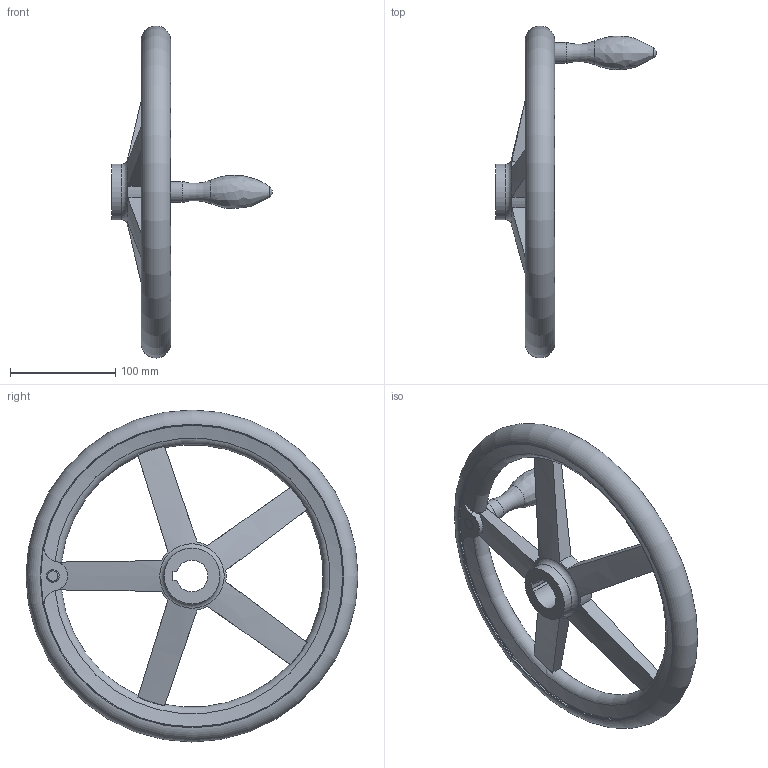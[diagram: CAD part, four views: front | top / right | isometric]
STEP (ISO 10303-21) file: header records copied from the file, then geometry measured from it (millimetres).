
FILE_DESCRIPTION( ( 'STEP AP203' ), '1' );
FILE_NAME( 'C:/Temp/Ganter_Step_05_03_2020/data/1_3/din_950/din_950_k/din_950_k_f/Handwheel DIN 950-GG-315-K30-F.stp', '2020-03-05T10:31:24', ( 'License CC BY-ND 4.0' ), ( 'CADENAS' ), ' ', 'PARTsolutions', ' ' );
FILE_SCHEMA( ( 'CONFIG_CONTROL_DESIGN' ) );
Length unit declared in the file: millimetre
Products named in the file (1): _Handwheel DIN 950-GG-315-K30-F
Bounding box: 152.5 x 315 x 315 mm (x, y, z)
Volume: 848423.8 mm3; surface area: 143518 mm2
Topology: 1 solids, 1 shells, 66 faces, 196 edges, 127 vertices
Faces by surface type: torus 21, cylinder 20, plane 18, cone 5, sphere 1, bspline 1
Full cylindrical faces by diameter (mm): 12 x1, 19.8 x1, 53 x2, 287 x2
Entity records: 2704 total; most frequent: CARTESIAN_POINT 1077, ORIENTED_EDGE 338, DIRECTION 300, EDGE_CURVE 169, AXIS2_PLACEMENT_3D 137, VERTEX_POINT 121, EDGE_LOOP 92, FACE_OUTER_BOUND 81
